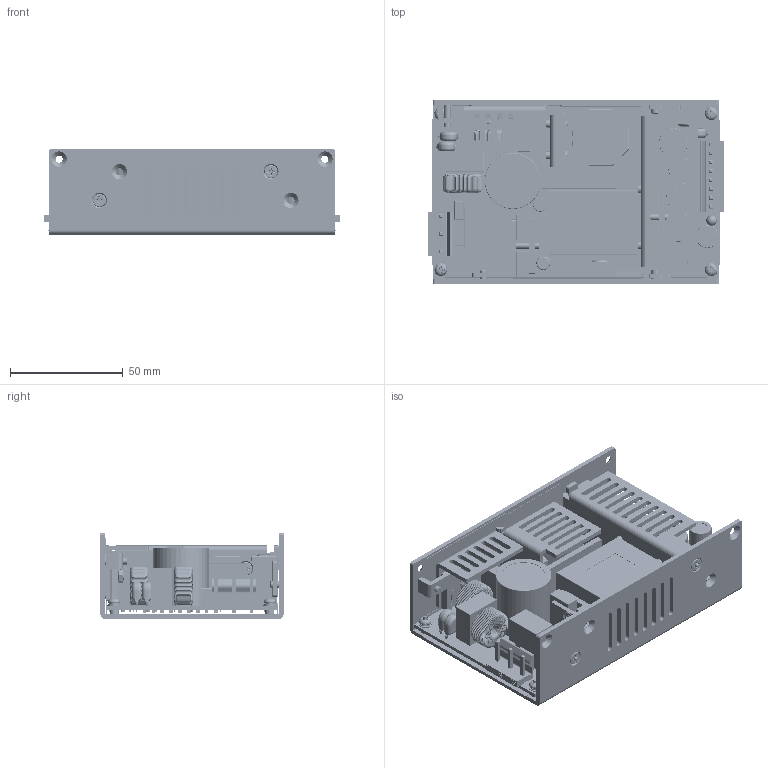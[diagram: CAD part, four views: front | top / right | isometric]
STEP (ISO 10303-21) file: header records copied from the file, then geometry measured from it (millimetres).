
FILE_DESCRIPTION(/* description */ (''),/* implementation_level */ '2;1');
FILE_NAME(/* name */ 'D:\Inventor\3D Files\200508\AQF120U A TYPE.stp',/* time_stamp */ '2020-04-23T16:18:30+08:00',/* author */ ('peter'),/* organization */ (''),/* preprocessor_version */ 'ST-DEVELOPER v15.2',/* originating_system */ 'Autodesk Inventor 2014',/* authorisation */ '');
FILE_SCHEMA (('AUTOMOTIVE_DESIGN { 1 0 10303 214 3 1 1 }'));
Products named in the file (40): BOT CASE; M3 - 4mm; M3 - 2mm; PCB; X3 HEATSINK; INSULATOR TO-220; I HEATSINK; SCREW PH M3_12 mm; X2 HEATSINK; SCREW PH M3_10 mm; X1 HEATSINK; TO-220FP; TO-220FP_1; SCREW CH_W  M3_8mm; BD1; SCREW PH M3_8mm; M3; VR; A TYPE - IN; A TYPE - OUT; LED; L1; L1_1; Y -- C; Y -- C_1; Y -- C_2; Y -- C_3; Y -- C_4; LABEL - 12S; PCB - A TYPE; MYLAR - CASE 1; P100 _ 50 X 35 mm; SCREW PH M3_6mm; THREADED CLIP Max; SCREW CH_W  M3_6mm; AQF120U A TYPE
Bounding box: 131.4 x 81.4 x 38.1 mm (x, y, z)
Volume: 154959.3 mm3; surface area: 151574.5 mm2
Topology: 71 solids, 245 shells, 8132 faces, 16226 edges, 8431 vertices
Faces by surface type: cylinder 3006, torus 2898, plane 1806, bspline 277, cone 128, sphere 17
Full cylindrical faces by diameter (mm): 0.45 x3, 0.5 x1, 0.6 x16, 1.85 x2, 2.459 x23, 3 x14, 3.1 x6, 3.2 x22, 3.5 x7, 4 x11, 4.1 x11, 4.219 x1, 4.7 x1, 5.8 x14, 6 x1, 6.129 x1, 6.353 x1, 8.825 x1, 8.853 x1, 9.476 x1, 10.037 x1, 10.297 x1, 12.809 x2, 12.995 x1, 19.003 x1, 24.791 x1
Entity records: 211084 total; most frequent: CARTESIAN_POINT 53038, DIRECTION 35614, ORIENTED_EDGE 32174, AXIS2_PLACEMENT_3D 15445, EDGE_CURVE 14690, EDGE_LOOP 8088, ADVANCED_FACE 7601, FACE_OUTER_BOUND 7536
